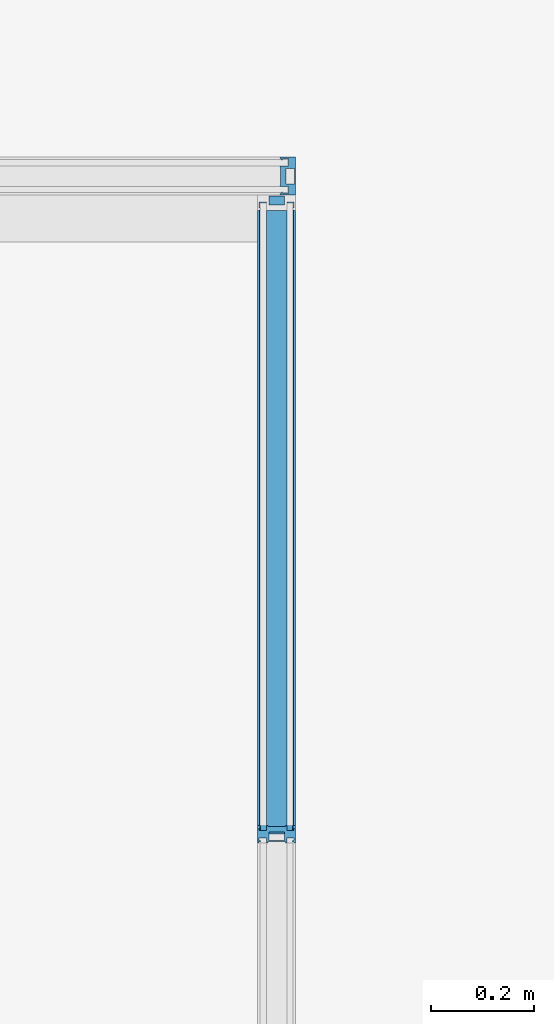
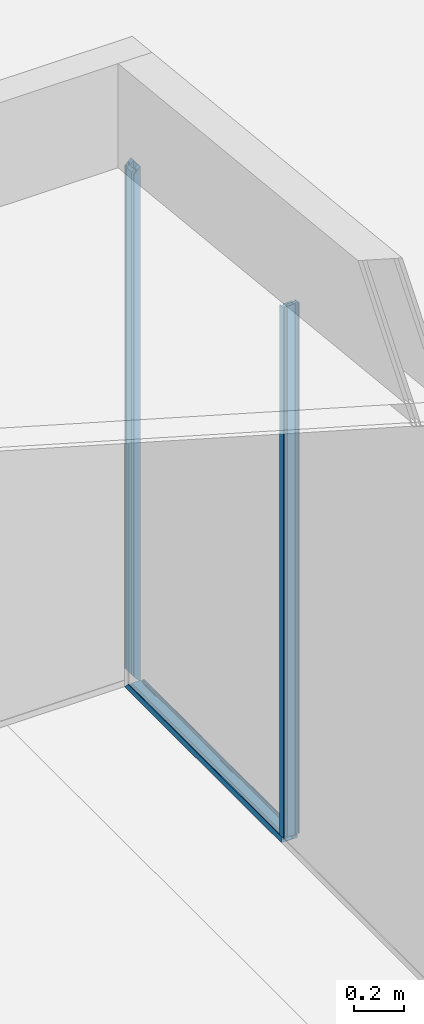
# One storey, part 19 of 43: 3 members, 2 elements without a shape of their own.
"""IFC2X3 building model written with IfcOpenShell, lengths in millimetres."""

from ifc_helpers import new_model, entity, si_unit, converted_unit, derived_unit, money_unit, direction, frame, origin_with_axes, place, context, subcontext, project, spatial, faceted_brep, material, material_list, type_object, element, aggregate, save


model = new_model("IFC2X3")

# Units and contexts
model_context = context("Model", 3, precision=0.01, world=origin_with_axes(), true_north=direction((0.0, 1.0)))
body_context = subcontext(model_context, "Body", "Model", "MODEL_VIEW")
ifc_project = project(units=[si_unit("LENGTHUNIT", "METRE", prefix="MILLI"), si_unit("AREAUNIT", "SQUARE_METRE"), si_unit("VOLUMEUNIT", "CUBIC_METRE"), converted_unit("PLANEANGLEUNIT", "DEGREE", entity("IfcPlaneAngleMeasure", 0.0174532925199), si_unit("PLANEANGLEUNIT", "RADIAN"), dimensions=[0, 0, 0, 0, 0, 0, 0]), si_unit("SOLIDANGLEUNIT", "STERADIAN"), money_unit("EUR"), converted_unit("TIMEUNIT", "Year", entity("IfcTimeMeasure", 31556926.0), si_unit("TIMEUNIT", "SECOND"), dimensions=[0, 0, 1, 0, 0, 0, 0]), si_unit("MASSUNIT", "GRAM", prefix="KILO"), si_unit("THERMODYNAMICTEMPERATUREUNIT", "DEGREE_CELSIUS"), si_unit("LUMINOUSINTENSITYUNIT", "LUMEN"), si_unit("ENERGYUNIT", "JOULE", prefix="MEGA"), derived_unit("THERMALCONDUCTANCEUNIT", [(si_unit("POWERUNIT", "WATT"), 1), (si_unit("LENGTHUNIT", "METRE"), -1), (si_unit("THERMODYNAMICTEMPERATUREUNIT", "KELVIN"), -1)]), derived_unit("SPECIFICHEATCAPACITYUNIT", [(si_unit("ENERGYUNIT", "JOULE"), 1), (si_unit("MASSUNIT", "GRAM", prefix="KILO"), -1), (si_unit("THERMODYNAMICTEMPERATUREUNIT", "KELVIN"), -1)]), derived_unit("MASSDENSITYUNIT", [(si_unit("MASSUNIT", "GRAM", prefix="KILO"), 1), (si_unit("VOLUMEUNIT", "CUBIC_METRE"), -1)])], contexts=[model_context])

# Site, building, storey
site_placement = place(None, origin_with_axes())
site = spatial("IfcSite", under=ifc_project, at=site_placement, Name="L.Koidula tn 11b", CompositionType="ELEMENT")
building_placement = place(site_placement, origin_with_axes())
building = spatial("IfcBuilding", under=site, at=building_placement, Name="Rakvere Riigigümnaasium", CompositionType="ELEMENT")
storey_placement = place(building_placement, frame((0.0, 0.0, 6665.0), z_axis=(0.0, 0.0, 1.0), x_axis=(1.0, 0.0, 0.0)))
storey = spatial("IfcBuildingStorey", under=building, at=storey_placement, Name="3.korrus +6,66", CompositionType="ELEMENT", Elevation=6665.0)

# Curtain wall, member
curtain_wall_type = type_object("IfcCurtainWallType", Name="Curtain Wall Type", PredefinedType="NOTDEFINED")
curtain_wall_1_placement = place(storey_placement, frame((45254.9999955, 28178.4554945, 0.0), z_axis=(0.0, 0.0, 1.0), x_axis=(1.0, 0.0, 0.0)))
curtain_wall_1 = element("IfcCurtainWall", 1, at=curtain_wall_1_placement, inside=storey, type_object=curtain_wall_type, Name="SKLF-26")
ifc_material_1 = material(Name="Klaasvill")
ifc_material_2 = material(Name="Teras RAL7012")
ifc_material_list = material_list([ifc_material_1, ifc_material_2])
member_type_1 = type_object("IfcMemberType", Name="Boundary Frame 30 x 42", PredefinedType="MULLION")
member_1_placement = place(curtain_wall_1_placement, frame((2355.0, 0.0, 0.0), z_axis=(0.0, 0.0, 1.0), x_axis=(1.0, 0.0, 0.0)))
member_1 = element("IfcMember", 2, at=member_1_placement, type_object=member_type_1, material=ifc_material_list, Name="SKLF-10-raam", ObjectType="MULLION", context=body_context, shape_type="Brep", body=[
    faceted_brep([(-13.8499999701, 15.000000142, 13.8499999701), (-7.49999990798, 15.000000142, 7.49999990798), (-7.49999990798, 15.000000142, 2482.49984226), (-13.8499999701, 15.000000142, 2476.1498422), (-13.8499999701, 29.0161444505, 13.8499999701), (-7.49999990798, 29.0161444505, 7.49999990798), (-7.49999990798, 29.0161444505, 2482.49984226), (-13.8499999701, 29.0161444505, 2476.1498422)], [[[0, 1, 2, 3]], [[1, 0, 4, 5]], [[1, 5, 6, 2]], [[2, 6, 7, 3]], [[4, 0, 3, 7]], [[5, 4, 7, 6]]]),
    faceted_brep([(-25.004489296, 27.0307503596, 25.004489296), (-24.987414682, 29.0161444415, 24.987414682), (-24.987414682, 29.0161444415, 2465.01242749), (-25.004489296, 27.0307503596, 2464.99535287), (-25.742237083, 26.2930025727, 25.742237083), (-26.7500193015, 26.0229681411, 26.7500193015), (-27.75780152, 26.2930025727, 27.75780152), (-28.4955493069, 27.0307503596, 28.4955493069), (-28.7655837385, 28.0385325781, 28.7655837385), (-28.5126239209, 29.0161444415, 28.5126239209), (-28.5126239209, 29.0161444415, 2461.48721825), (-28.7655837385, 28.0385325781, 2461.23425843), (-28.4955493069, 27.0307503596, 2461.50429286), (-27.75780152, 26.2930025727, 2462.24204065), (-26.7500193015, 26.0229681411, 2463.24982287), (-25.742237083, 26.2930025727, 2464.25760509)], [[[0, 1, 2, 3]], [[1, 0, 4, 5, 6, 7, 8, 9]], [[1, 9, 10, 2]], [[2, 10, 11, 12, 13, 14, 15, 3]], [[4, 0, 3, 15]], [[5, 4, 15, 14]], [[6, 5, 14, 13]], [[7, 6, 13, 12]], [[8, 7, 12, 11]], [[9, 8, 11, 10]]]),
    faceted_brep([(-7.49999990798, -39.0161445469, 7.49999990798), (-7.49999990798, -24.9999997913, 7.49999990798), (-7.49999990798, -24.9999997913, 2482.49984226), (-7.49999990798, -39.0161445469, 2482.49984226), (-13.8499999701, -39.0161445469, 13.8499999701), (-13.8499999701, -24.9999997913, 13.8499999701), (-13.8499999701, -24.9999997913, 2476.1498422), (-13.8499999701, -39.0161445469, 2476.1498422)], [[[0, 1, 2, 3]], [[1, 0, 4, 5]], [[1, 5, 6, 2]], [[2, 6, 7, 3]], [[4, 0, 3, 7]], [[5, 4, 7, 6]]]),
    faceted_brep([(-24.987414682, -39.0161444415, 24.987414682), (-25.004489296, -37.0307503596, 25.004489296), (-25.004489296, -37.0307503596, 2464.99535287), (-24.987414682, -39.0161444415, 2465.01242749), (-28.5126239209, -39.0161444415, 28.5126239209), (-28.7655837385, -38.0385325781, 28.7655837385), (-28.4955493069, -37.0307503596, 28.4955493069), (-27.75780152, -36.2930025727, 27.75780152), (-26.7500193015, -36.0229681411, 26.7500193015), (-25.742237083, -36.2930025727, 25.742237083), (-25.742237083, -36.2930025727, 2464.25760509), (-26.7500193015, -36.0229681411, 2463.24982287), (-27.75780152, -36.2930025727, 2462.24204065), (-28.4955493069, -37.0307503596, 2461.50429286), (-28.7655837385, -38.0385325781, 2461.23425843), (-28.5126239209, -39.0161444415, 2461.48721825)], [[[0, 1, 2, 3]], [[1, 0, 4, 5, 6, 7, 8, 9]], [[1, 9, 10, 2]], [[2, 10, 11, 12, 13, 14, 15, 3]], [[4, 0, 3, 15]], [[5, 4, 15, 14]], [[6, 5, 14, 13]], [[7, 6, 13, 12]], [[8, 7, 12, 11]], [[9, 8, 11, 10]]]),
    faceted_brep([(-29.5999996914, -22.0000000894, 29.5999996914), (0.0, -22.0000000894, 0.0), (0.0, -22.0000000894, 2489.99984217), (-29.5999996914, -22.0000000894, 2460.39984248), (-29.5999996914, 12.0000000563, 29.5999996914), (0.0, 12.0000000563, 0.0), (-1.9999999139, 10.0000001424, 1.9999999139), (-18.7999996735, 10.0000001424, 18.7999996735), (-18.7999996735, -20.0000001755, 18.7999996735), (-1.9999999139, -20.0000001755, 1.9999999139), (0.0, 12.0000000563, 2489.99984217), (-29.5999996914, 12.0000000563, 2460.39984248), (-1.9999999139, 10.0000001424, 2487.99984226), (-1.9999999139, -20.0000001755, 2487.99984226), (-18.7999996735, -20.0000001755, 2471.1998425), (-18.7999996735, 10.0000001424, 2471.1998425)], [[[0, 1, 2, 3]], [[1, 0, 4, 5], [6, 7, 8, 9]], [[1, 5, 10, 2]], [[2, 10, 11, 3], [12, 13, 14, 15]], [[4, 0, 3, 11]], [[5, 4, 11, 10]], [[7, 6, 12, 15]], [[8, 7, 15, 14]], [[9, 8, 14, 13]], [[6, 9, 13, 12]]]),
    faceted_brep([(-29.5999996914, 12.0000000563, 29.5999996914), (0.0, 12.0, 0.0), (0.0, 12.0, 2489.99984217), (-29.5999996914, 12.0000000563, 2460.39984248), (-30.0000193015, 12.0, 30.0000193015), (-30.0000193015, 15.0, 30.0000193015), (-13.8499999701, 15.000000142, 13.8499999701), (-7.49999999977, 15.0, 7.49999999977), (-7.49999999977, 29.0161444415, 7.49999999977), (-13.8499999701, 29.0161444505, 13.8499999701), (-24.987414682, 29.0161444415, 24.987414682), (-28.5126239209, 29.0161444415, 28.5126239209), (-30.0000193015, 29.0161444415, 30.0000193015), (-30.0000193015, 32.0, 30.0000193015), (0.0, 32.0, 0.0), (0.0, 32.0, 2489.99984217), (-30.0000193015, 32.0, 2459.99982287), (-30.0000193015, 29.0161444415, 2459.99982287), (-28.5126239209, 29.0161444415, 2461.48721825), (-24.987414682, 29.0161444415, 2465.01242749), (-13.8499999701, 29.0161444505, 2476.1498422), (-7.49999999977, 29.0161444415, 2482.49984217), (-7.49999999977, 15.0, 2482.49984217), (-13.8499999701, 15.000000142, 2476.1498422), (-30.0000193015, 15.0, 2459.99982287), (-30.0000193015, 12.0, 2459.99982287)], [[[0, 1, 2, 3]], [[1, 0, 4, 5, 6, 7, 8, 9, 10, 11, 12, 13, 14]], [[1, 14, 15, 2]], [[2, 15, 16, 17, 18, 19, 20, 21, 22, 23, 24, 25, 3]], [[4, 0, 3, 25]], [[5, 4, 25, 24]], [[6, 5, 24, 23]], [[7, 6, 23, 22]], [[8, 7, 22, 21]], [[9, 8, 21, 20]], [[10, 9, 20, 19]], [[11, 10, 19, 18]], [[12, 11, 18, 17]], [[13, 12, 17, 16]], [[14, 13, 16, 15]]]),
    faceted_brep([(0.0, -42.0, 0.0), (0.0, -22.0, 0.0), (0.0, -22.0, 2489.99984217), (0.0, -42.0, 2489.99984217), (-30.0000193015, -42.0, 30.0000193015), (-30.0000193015, -39.0161444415, 30.0000193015), (-28.5126239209, -39.0161444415, 28.5126239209), (-24.987414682, -39.0161444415, 24.987414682), (-13.8499999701, -39.0161445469, 13.8499999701), (-7.49999999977, -39.0161444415, 7.49999999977), (-7.49999999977, -25.0, 7.49999999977), (-13.8499999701, -24.9999997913, 13.8499999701), (-30.0000193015, -25.0, 30.0000193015), (-30.0000193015, -22.0, 30.0000193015), (-29.5999996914, -22.0000000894, 29.5999996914), (-29.5999996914, -22.0000000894, 2460.39984248), (-30.0000193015, -22.0, 2459.99982287), (-30.0000193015, -25.0, 2459.99982287), (-13.8499999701, -24.9999997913, 2476.1498422), (-7.49999999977, -25.0, 2482.49984217), (-7.49999999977, -39.0161444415, 2482.49984217), (-13.8499999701, -39.0161445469, 2476.1498422), (-24.987414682, -39.0161444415, 2465.01242749), (-28.5126239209, -39.0161444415, 2461.48721825), (-30.0000193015, -39.0161444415, 2459.99982287), (-30.0000193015, -42.0, 2459.99982287)], [[[0, 1, 2, 3]], [[1, 0, 4, 5, 6, 7, 8, 9, 10, 11, 12, 13, 14]], [[1, 14, 15, 2]], [[2, 15, 16, 17, 18, 19, 20, 21, 22, 23, 24, 25, 3]], [[4, 0, 3, 25]], [[5, 4, 25, 24]], [[6, 5, 24, 23]], [[7, 6, 23, 22]], [[8, 7, 22, 21]], [[9, 8, 21, 20]], [[10, 9, 20, 19]], [[11, 10, 19, 18]], [[12, 11, 18, 17]], [[13, 12, 17, 16]], [[14, 13, 16, 15]]]),
])
aggregate(curtain_wall_1, [member_1])

# Curtain wall, members
curtain_wall_2_placement = place(storey_placement, frame((47567.9999955, 27513.9554945, 0.0), z_axis=(0.0, 0.0, 1.0), x_axis=(1.0, 0.0, 0.0)))
curtain_wall_2 = element("IfcCurtainWall", 3, at=curtain_wall_2_placement, inside=storey, type_object=curtain_wall_type, Name="SKLF-27")
member_2_placement = place(curtain_wall_2_placement, frame((0.0, 622.5, 0.0), z_axis=(0.0, -1.0, 0.0), x_axis=(0.0, 0.0, 1.0)))
member_2 = element("IfcMember", 4, at=member_2_placement, type_object=member_type_1, material=ifc_material_list, Name="SKLF-01-raam", ObjectType="MULLION", context=body_context, shape_type="Brep", body=[
    faceted_brep([(13.8499999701, 15.000000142, 13.8499999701), (13.8499999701, 15.000000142, 1245.0), (7.49999990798, 15.000000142, 1245.0), (7.49999990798, 15.000000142, 7.49999990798), (13.8499999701, 29.0161444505, 13.8499999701), (13.8499999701, 29.0161444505, 1245.0), (7.49999990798, 29.0161444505, 1245.0), (7.49999990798, 29.0161444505, 7.49999990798)], [[[0, 1, 2, 3]], [[4, 5, 1, 0]], [[2, 1, 5, 6]], [[3, 2, 6, 7]], [[3, 7, 4, 0]], [[7, 6, 5, 4]]]),
    faceted_brep([(25.004489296, 27.0307503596, 25.004489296), (25.004489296, 27.0307503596, 1245.0), (24.987414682, 29.0161444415, 1245.0), (24.987414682, 29.0161444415, 24.987414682), (25.742237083, 26.2930025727, 25.742237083), (25.742237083, 26.2930025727, 1245.0), (26.7500193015, 26.0229681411, 1245.0), (27.75780152, 26.2930025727, 1245.0), (28.4955493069, 27.0307503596, 1245.0), (28.7655837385, 28.0385325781, 1245.0), (28.5126239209, 29.0161444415, 1245.0), (28.5126239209, 29.0161444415, 28.5126239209), (28.7655837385, 28.0385325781, 28.7655837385), (28.4955493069, 27.0307503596, 28.4955493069), (27.75780152, 26.2930025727, 27.75780152), (26.7500193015, 26.0229681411, 26.7500193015)], [[[0, 1, 2, 3]], [[4, 5, 1, 0]], [[2, 1, 5, 6, 7, 8, 9, 10]], [[3, 2, 10, 11]], [[3, 11, 12, 13, 14, 15, 4, 0]], [[15, 6, 5, 4]], [[14, 7, 6, 15]], [[13, 8, 7, 14]], [[12, 9, 8, 13]], [[11, 10, 9, 12]]]),
    faceted_brep([(7.49999990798, -39.0161445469, 7.49999990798), (7.49999990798, -39.0161445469, 1245.0), (7.49999990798, -24.9999997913, 1245.0), (7.49999990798, -24.9999997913, 7.49999990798), (13.8499999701, -39.0161445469, 13.8499999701), (13.8499999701, -39.0161445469, 1245.0), (13.8499999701, -24.9999997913, 1245.0), (13.8499999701, -24.9999997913, 13.8499999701)], [[[0, 1, 2, 3]], [[4, 5, 1, 0]], [[2, 1, 5, 6]], [[3, 2, 6, 7]], [[3, 7, 4, 0]], [[7, 6, 5, 4]]]),
    faceted_brep([(24.987414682, -39.0161444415, 24.987414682), (24.987414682, -39.0161444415, 1245.0), (25.004489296, -37.0307503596, 1245.0), (25.004489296, -37.0307503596, 25.004489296), (28.5126239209, -39.0161444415, 28.5126239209), (28.5126239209, -39.0161444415, 1245.0), (28.7655837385, -38.0385325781, 1245.0), (28.4955493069, -37.0307503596, 1245.0), (27.75780152, -36.2930025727, 1245.0), (26.7500193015, -36.0229681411, 1245.0), (25.742237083, -36.2930025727, 1245.0), (25.742237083, -36.2930025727, 25.742237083), (26.7500193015, -36.0229681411, 26.7500193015), (27.75780152, -36.2930025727, 27.75780152), (28.4955493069, -37.0307503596, 28.4955493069), (28.7655837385, -38.0385325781, 28.7655837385)], [[[0, 1, 2, 3]], [[4, 5, 1, 0]], [[2, 1, 5, 6, 7, 8, 9, 10]], [[3, 2, 10, 11]], [[3, 11, 12, 13, 14, 15, 4, 0]], [[15, 6, 5, 4]], [[14, 7, 6, 15]], [[13, 8, 7, 14]], [[12, 9, 8, 13]], [[11, 10, 9, 12]]]),
    faceted_brep([(29.5999996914, -22.0000000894, 29.5999996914), (29.5999996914, -22.0000000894, 1245.0), (0.0, -22.0000000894, 1245.0), (0.0, -22.0000000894, 0.0), (29.5999996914, 12.0000000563, 29.5999996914), (29.5999996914, 12.0000000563, 1245.0), (0.0, 12.0000000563, 1245.0), (1.9999999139, 10.0000001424, 1245.0), (18.7999996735, 10.0000001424, 1245.0), (18.7999996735, -20.0000001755, 1245.0), (1.9999999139, -20.0000001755, 1245.0), (0.0, 12.0000000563, 0.0), (1.9999999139, 10.0000001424, 1.9999999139), (1.9999999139, -20.0000001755, 1.9999999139), (18.7999996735, -20.0000001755, 18.7999996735), (18.7999996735, 10.0000001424, 18.7999996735)], [[[0, 1, 2, 3]], [[4, 5, 1, 0]], [[2, 1, 5, 6], [7, 8, 9, 10]], [[3, 2, 6, 11]], [[3, 11, 4, 0], [12, 13, 14, 15]], [[11, 6, 5, 4]], [[15, 8, 7, 12]], [[14, 9, 8, 15]], [[13, 10, 9, 14]], [[12, 7, 10, 13]]]),
    faceted_brep([(29.5999996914, 12.0000000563, 29.5999996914), (29.5999996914, 12.0000000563, 1245.0), (0.0, 12.0, 1245.0), (0.0, 12.0, 0.0), (30.0000193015, 12.0, 30.0000193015), (30.0000193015, 12.0, 1245.0), (30.0000193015, 15.0, 1245.0), (13.8499999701, 15.000000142, 1245.0), (7.49999999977, 15.0, 1245.0), (7.49999999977, 29.0161444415, 1245.0), (13.8499999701, 29.0161444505, 1245.0), (24.987414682, 29.0161444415, 1245.0), (28.5126239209, 29.0161444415, 1245.0), (30.0000193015, 29.0161444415, 1245.0), (30.0000193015, 32.0, 1245.0), (0.0, 32.0, 1245.0), (0.0, 32.0, 0.0), (30.0000193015, 32.0, 30.0000193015), (30.0000193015, 29.0161444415, 30.0000193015), (28.5126239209, 29.0161444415, 28.5126239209), (24.987414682, 29.0161444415, 24.987414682), (13.8499999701, 29.0161444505, 13.8499999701), (7.49999999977, 29.0161444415, 7.49999999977), (7.49999999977, 15.0, 7.49999999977), (13.8499999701, 15.000000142, 13.8499999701), (30.0000193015, 15.0, 30.0000193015)], [[[0, 1, 2, 3]], [[4, 5, 1, 0]], [[2, 1, 5, 6, 7, 8, 9, 10, 11, 12, 13, 14, 15]], [[3, 2, 15, 16]], [[3, 16, 17, 18, 19, 20, 21, 22, 23, 24, 25, 4, 0]], [[25, 6, 5, 4]], [[24, 7, 6, 25]], [[23, 8, 7, 24]], [[22, 9, 8, 23]], [[21, 10, 9, 22]], [[20, 11, 10, 21]], [[19, 12, 11, 20]], [[18, 13, 12, 19]], [[17, 14, 13, 18]], [[16, 15, 14, 17]]]),
    faceted_brep([(0.0, -42.0, 0.0), (0.0, -42.0, 1245.0), (0.0, -22.0, 1245.0), (0.0, -22.0, 0.0), (30.0000193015, -42.0, 30.0000193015), (30.0000193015, -42.0, 1245.0), (30.0000193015, -39.0161444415, 1245.0), (28.5126239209, -39.0161444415, 1245.0), (24.987414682, -39.0161444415, 1245.0), (13.8499999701, -39.0161445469, 1245.0), (7.49999999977, -39.0161444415, 1245.0), (7.49999999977, -25.0, 1245.0), (13.8499999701, -24.9999997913, 1245.0), (30.0000193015, -25.0, 1245.0), (30.0000193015, -22.0, 1245.0), (29.5999996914, -22.0000000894, 1245.0), (29.5999996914, -22.0000000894, 29.5999996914), (30.0000193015, -22.0, 30.0000193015), (30.0000193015, -25.0, 30.0000193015), (13.8499999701, -24.9999997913, 13.8499999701), (7.49999999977, -25.0, 7.49999999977), (7.49999999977, -39.0161444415, 7.49999999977), (13.8499999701, -39.0161445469, 13.8499999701), (24.987414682, -39.0161444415, 24.987414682), (28.5126239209, -39.0161444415, 28.5126239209), (30.0000193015, -39.0161444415, 30.0000193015)], [[[0, 1, 2, 3]], [[4, 5, 1, 0]], [[2, 1, 5, 6, 7, 8, 9, 10, 11, 12, 13, 14, 15]], [[3, 2, 15, 16]], [[3, 16, 17, 18, 19, 20, 21, 22, 23, 24, 25, 4, 0]], [[25, 6, 5, 4]], [[24, 7, 6, 25]], [[23, 8, 7, 24]], [[22, 9, 8, 23]], [[21, 10, 9, 22]], [[20, 11, 10, 21]], [[19, 12, 11, 20]], [[18, 13, 12, 19]], [[17, 14, 13, 18]], [[16, 15, 14, 17]]]),
])
member_type_2 = type_object("IfcMemberType", Name="Siseklaasfassaad-Vaheprofiil-Doubleline30 34 x 42", PredefinedType="MULLION")
member_3_placement = place(curtain_wall_2_placement, frame((0.0, -622.5, 0.0), z_axis=(0.0, 0.0, 1.0), x_axis=(0.0, 1.0, 0.0)))
member_3 = element("IfcMember", 5, at=member_3_placement, type_object=member_type_2, material=ifc_material_list, Name="Frame-Siseklaasf-088", ObjectType="MULLION", context=body_context, shape_type="Brep", body=[
    faceted_brep([(12.004489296, 27.0307503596, 30.0000193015), (12.004489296, 27.0307503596, 2593.13253449), (11.987414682, 29.0161444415, 2593.13440831), (11.987414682, 29.0161444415, 30.0000193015), (12.742237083, 26.2930025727, 30.0000193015), (12.742237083, 26.2930025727, 2593.05157181), (13.7500193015, 26.0229681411, 2592.94097473), (14.75780152, 26.2930025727, 2592.83037765), (15.4955493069, 27.0307503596, 2592.74941497), (15.7655837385, 28.0385325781, 2592.71978057), (15.5126239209, 29.0161444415, 2592.74754115), (15.5126239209, 29.0161444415, 30.0000193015), (15.7655837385, 28.0385325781, 30.0000193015), (15.4955493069, 27.0307503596, 30.0000193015), (14.75780152, 26.2930025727, 30.0000193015), (13.7500193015, 26.0229681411, 30.0000193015)], [[[0, 1, 2, 3]], [[4, 5, 1, 0]], [[2, 1, 5, 6, 7, 8, 9, 10]], [[3, 2, 10, 11]], [[3, 11, 12, 13, 14, 15, 4, 0]], [[15, 6, 5, 4]], [[14, 7, 6, 15]], [[13, 8, 7, 14]], [[12, 9, 8, 13]], [[11, 10, 9, 12]]]),
    faceted_brep([(15.4955493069, -37.0307503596, 30.0000193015), (15.4955493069, -37.0307503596, 2592.74941497), (15.5126239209, -39.0161444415, 2592.74754115), (15.5126239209, -39.0161444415, 30.0000193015), (14.75780152, -36.2930025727, 30.0000193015), (14.75780152, -36.2930025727, 2592.83037765), (13.7500193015, -36.0229681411, 2592.94097473), (12.742237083, -36.2930025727, 2593.05157181), (12.004489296, -37.0307503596, 2593.13253449), (11.7344548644, -38.0385325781, 2593.16216889), (11.987414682, -39.0161444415, 2593.13440831), (11.987414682, -39.0161444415, 30.0000193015), (11.7344548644, -38.0385325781, 30.0000193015), (12.004489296, -37.0307503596, 30.0000193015), (12.742237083, -36.2930025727, 30.0000193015), (13.7500193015, -36.0229681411, 30.0000193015)], [[[0, 1, 2, 3]], [[4, 5, 1, 0]], [[2, 1, 5, 6, 7, 8, 9, 10]], [[3, 2, 10, 11]], [[3, 11, 12, 13, 14, 15, 4, 0]], [[15, 6, 5, 4]], [[14, 7, 6, 15]], [[13, 8, 7, 14]], [[12, 9, 8, 13]], [[11, 10, 9, 12]]]),
    faceted_brep([(-15.7655837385, 28.0385325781, 30.0000193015), (-15.7655837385, 28.0385325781, 2596.18010661), (-11.987414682, 29.0161444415, 2595.76547887), (-11.987414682, 29.0161444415, 30.0000193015), (-15.4955493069, 27.0307503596, 30.0000193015), (-15.4955493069, 27.0307503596, 2596.15047221), (-14.75780152, 26.2930025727, 2596.06950953), (-13.7500193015, 26.0229681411, 2595.95891245), (-12.742237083, 26.2930025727, 2595.84831537), (-12.004489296, 27.0307503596, 2595.76735269), (-11.7344548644, 28.0385325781, 2595.73771829), (-11.7344548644, 28.0385325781, 30.0000193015), (-12.004489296, 27.0307503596, 30.0000193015), (-12.742237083, 26.2930025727, 30.0000193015), (-13.7500193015, 26.0229681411, 30.0000193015), (-14.75780152, 26.2930025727, 30.0000193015)], [[[0, 1, 2, 3]], [[4, 5, 1, 0]], [[2, 1, 5, 6, 7, 8, 9, 10]], [[3, 2, 10, 11]], [[3, 11, 12, 13, 14, 15, 4, 0]], [[15, 6, 5, 4]], [[14, 7, 6, 15]], [[13, 8, 7, 14]], [[12, 9, 8, 13]], [[11, 10, 9, 12]]]),
    faceted_brep([(-15.5126239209, -39.0161444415, 30.0000193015), (-15.5126239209, -39.0161444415, 2596.15234603), (-15.4955493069, -37.0307503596, 2596.15047221), (-15.4955493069, -37.0307503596, 30.0000193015), (-11.987414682, -39.0161444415, 30.0000193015), (-11.987414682, -39.0161444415, 2595.76547887), (-11.7344548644, -38.0385325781, 2595.73771829), (-12.004489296, -37.0307503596, 2595.76735269), (-12.742237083, -36.2930025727, 2595.84831537), (-13.7500193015, -36.0229681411, 2595.95891245), (-14.75780152, -36.2930025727, 2596.06950953), (-14.75780152, -36.2930025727, 30.0000193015), (-13.7500193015, -36.0229681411, 30.0000193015), (-12.742237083, -36.2930025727, 30.0000193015), (-12.004489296, -37.0307503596, 30.0000193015), (-11.7344548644, -38.0385325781, 30.0000193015)], [[[0, 1, 2, 3]], [[4, 5, 1, 0]], [[2, 1, 5, 6, 7, 8, 9, 10]], [[3, 2, 10, 11]], [[3, 11, 12, 13, 14, 15, 4, 0]], [[15, 6, 5, 4]], [[14, 7, 6, 15]], [[13, 8, 7, 14]], [[12, 9, 8, 13]], [[11, 10, 9, 12]]]),
    faceted_brep([(-3.08905781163e-07, -22.0000000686, 30.0000193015), (-3.08905781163e-07, -22.0000000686, 2594.44994362), (-14.8000001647, -22.0000000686, 2596.07414053), (-14.8000001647, -22.0000000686, 30.0000193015), (14.8000003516, -22.0000000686, 30.0000193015), (14.8000003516, -22.0000000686, 2592.82574662), (14.8000003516, 12.0000001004, 2592.82574662), (-3.08905781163e-07, 12.0000001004, 2594.44994362), (-14.8000001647, 12.0000001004, 2596.07414053), (-12.8000002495, 10.0000001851, 2595.85465447), (4.0000003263, 10.0000001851, 2594.01097141), (4.0000003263, -20.0000001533, 2594.01097141), (-12.8000002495, -20.0000001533, 2595.85465447), (-14.8000001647, 12.0000001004, 30.0000193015), (-3.08905781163e-07, 12.0000001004, 30.0000193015), (14.8000003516, 12.0000001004, 30.0000193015), (-12.8000002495, 10.0000001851, 30.0000193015), (-12.8000002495, -20.0000001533, 30.0000193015), (4.0000003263, -20.0000001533, 30.0000193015), (4.0000003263, 10.0000001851, 30.0000193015)], [[[0, 1, 2, 3]], [[4, 5, 1, 0]], [[2, 1, 5, 6, 7, 8], [9, 10, 11, 12]], [[3, 2, 8, 13]], [[3, 13, 14, 15, 4, 0], [16, 17, 18, 19]], [[15, 6, 5, 4]], [[14, 7, 6, 15]], [[13, 8, 7, 14]], [[19, 10, 9, 16]], [[18, 11, 10, 19]], [[17, 12, 11, 18]], [[16, 9, 12, 17]]]),
    faceted_brep([(0.0, 12.0, 30.0000193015), (0.0, 12.0, 2594.44994359), (0.0, 32.0000000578, 2594.44994359), (0.0, 32.0000000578, 30.0000193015), (14.8000003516, 12.0000001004, 30.0000193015), (14.8000003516, 12.0000001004, 2592.82574662), (17.0000193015, 12.0, 2592.58430987), (17.0000193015, 15.0000000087, 2592.58430987), (7.50000002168, 15.0000000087, 2593.62687082), (7.50000002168, 29.0161446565, 2593.62687082), (11.987414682, 29.0161444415, 2593.13440831), (15.5126239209, 29.0161444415, 2592.74754115), (17.0000193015, 29.0161446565, 2592.58430987), (17.0000193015, 32.0000000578, 2592.58430987), (17.0000193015, 32.0000000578, 30.0000193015), (17.0000193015, 29.0161446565, 30.0000193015), (15.5126239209, 29.0161444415, 30.0000193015), (11.987414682, 29.0161444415, 30.0000193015), (7.50000002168, 29.0161446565, 30.0000193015), (7.50000002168, 15.0000000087, 30.0000193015), (17.0000193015, 15.0000000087, 30.0000193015), (17.0000193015, 12.0, 30.0000193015)], [[[0, 1, 2, 3]], [[4, 5, 1, 0]], [[2, 1, 5, 6, 7, 8, 9, 10, 11, 12, 13]], [[3, 2, 13, 14]], [[3, 14, 15, 16, 17, 18, 19, 20, 21, 4, 0]], [[21, 6, 5, 4]], [[20, 7, 6, 21]], [[19, 8, 7, 20]], [[18, 9, 8, 19]], [[17, 10, 9, 18]], [[16, 11, 10, 17]], [[15, 12, 11, 16]], [[14, 13, 12, 15]]]),
    faceted_brep([(0.0, -42.0, 30.0000193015), (0.0, -42.0, 2594.44994359), (0.0, -21.9999999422, 2594.44994359), (0.0, -21.9999999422, 30.0000193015), (17.0000193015, -42.0, 30.0000193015), (17.0000193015, -42.0, 2592.58430987), (17.0000193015, -39.0161445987, 2592.58430987), (15.5126239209, -39.0161444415, 2592.74754115), (11.987414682, -39.0161444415, 2593.13440831), (7.50000002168, -39.0161445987, 2593.62687082), (7.50000002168, -24.9999999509, 2593.62687082), (17.0000193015, -24.9999999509, 2592.58430987), (17.0000193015, -21.9999999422, 2592.58430987), (14.8000003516, -22.0000000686, 2592.82574662), (14.8000003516, -22.0000000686, 30.0000193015), (17.0000193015, -21.9999999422, 30.0000193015), (17.0000193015, -24.9999999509, 30.0000193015), (7.50000002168, -24.9999999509, 30.0000193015), (7.50000002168, -39.0161445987, 30.0000193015), (11.987414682, -39.0161444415, 30.0000193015), (15.5126239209, -39.0161444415, 30.0000193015), (17.0000193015, -39.0161445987, 30.0000193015)], [[[0, 1, 2, 3]], [[4, 5, 1, 0]], [[2, 1, 5, 6, 7, 8, 9, 10, 11, 12, 13]], [[3, 2, 13, 14]], [[3, 14, 15, 16, 17, 18, 19, 20, 21, 4, 0]], [[21, 6, 5, 4]], [[20, 7, 6, 21]], [[19, 8, 7, 20]], [[18, 9, 8, 19]], [[17, 10, 9, 18]], [[16, 11, 10, 17]], [[15, 12, 11, 16]], [[14, 13, 12, 15]]]),
    faceted_brep([(0.0, 32.0, 30.0000193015), (0.0, 32.0, 2594.44994359), (0.0, 12.0, 2594.44994359), (0.0, 12.0, 30.0000193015), (-17.0000193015, 32.0, 30.0000193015), (-17.0000193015, 32.0, 2596.31557731), (-17.0000193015, 29.0161444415, 2596.31557731), (-15.5126239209, 29.0161444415, 2596.15234603), (-11.987414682, 29.0161444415, 2595.76547887), (-7.49999999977, 29.0161444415, 2595.27301636), (-7.49999999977, 15.0, 2595.27301636), (-17.0000193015, 15.0, 2596.31557731), (-17.0000193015, 12.0, 2596.31557731), (-14.8000001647, 12.0000001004, 2596.07414053), (-14.8000001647, 12.0000001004, 30.0000193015), (-17.0000193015, 12.0, 30.0000193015), (-17.0000193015, 15.0, 30.0000193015), (-7.49999999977, 15.0, 30.0000193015), (-7.49999999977, 29.0161444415, 30.0000193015), (-11.987414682, 29.0161444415, 30.0000193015), (-15.5126239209, 29.0161444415, 30.0000193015), (-17.0000193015, 29.0161444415, 30.0000193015)], [[[0, 1, 2, 3]], [[4, 5, 1, 0]], [[2, 1, 5, 6, 7, 8, 9, 10, 11, 12, 13]], [[3, 2, 13, 14]], [[3, 14, 15, 16, 17, 18, 19, 20, 21, 4, 0]], [[21, 6, 5, 4]], [[20, 7, 6, 21]], [[19, 8, 7, 20]], [[18, 9, 8, 19]], [[17, 10, 9, 18]], [[16, 11, 10, 17]], [[15, 12, 11, 16]], [[14, 13, 12, 15]]]),
    faceted_brep([(-14.8000001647, -22.0000000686, 30.0000193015), (-14.8000001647, -22.0000000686, 2596.07414053), (0.0, -22.0, 2594.44994359), (0.0, -22.0, 30.0000193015), (-17.0000193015, -22.0, 30.0000193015), (-17.0000193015, -22.0, 2596.31557731), (-17.0000193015, -25.0, 2596.31557731), (-7.49999999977, -25.0, 2595.27301636), (-7.49999999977, -39.0161444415, 2595.27301636), (-11.987414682, -39.0161444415, 2595.76547887), (-15.5126239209, -39.0161444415, 2596.15234603), (-17.0000193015, -39.0161444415, 2596.31557731), (-17.0000193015, -42.0, 2596.31557731), (0.0, -42.0, 2594.44994359), (0.0, -42.0, 30.0000193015), (-17.0000193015, -42.0, 30.0000193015), (-17.0000193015, -39.0161444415, 30.0000193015), (-15.5126239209, -39.0161444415, 30.0000193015), (-11.987414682, -39.0161444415, 30.0000193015), (-7.49999999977, -39.0161444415, 30.0000193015), (-7.49999999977, -25.0, 30.0000193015), (-17.0000193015, -25.0, 30.0000193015)], [[[0, 1, 2, 3]], [[4, 5, 1, 0]], [[2, 1, 5, 6, 7, 8, 9, 10, 11, 12, 13]], [[3, 2, 13, 14]], [[3, 14, 15, 16, 17, 18, 19, 20, 21, 4, 0]], [[21, 6, 5, 4]], [[20, 7, 6, 21]], [[19, 8, 7, 20]], [[18, 9, 8, 19]], [[17, 10, 9, 18]], [[16, 11, 10, 17]], [[15, 12, 11, 16]], [[14, 13, 12, 15]]]),
])
aggregate(curtain_wall_2, [member_2, member_3])

save(model, "model.ifc")
